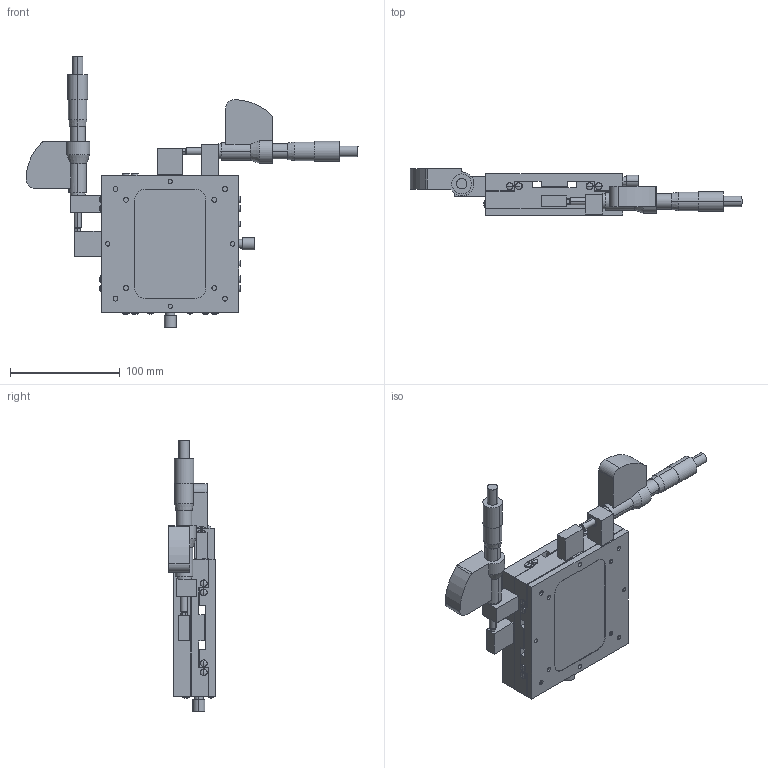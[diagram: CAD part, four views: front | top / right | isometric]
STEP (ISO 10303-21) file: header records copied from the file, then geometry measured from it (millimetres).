
FILE_DESCRIPTION (( 'STEP AP203' ), '1' );
FILE_NAME ('LD-149-S7.STEP', '2008-01-18T09:17:50', ( '' ), ( '' ), 'SwSTEP 2.0', 'SolidWorks 2007', '' );
FILE_SCHEMA (( 'CONFIG_CONTROL_DESIGN' ));
Length unit declared in the file: millimetre
Products named in the file (4): LD-149-S7; LD-149-S7-1_蹬怮椔; LD-149-S7-3_蹬怮椔; LD-149-S7-2_蹬怮椔
Assembly tree (3 placements, depth 2):
  LD-149-S7
    LD-149-S7-3_蹬怮椔
    LD-149-S7-1_蹬怮椔
    LD-149-S7-2_蹬怮椔
Bounding box: 303.21 x 42.5 x 248.3 mm (x, y, z)
Volume: 682750.3 mm3; surface area: 180573.8 mm2
Topology: 5 solids, 5 shells, 459 faces, 1090 edges, 714 vertices
Faces by surface type: cylinder 194, plane 177, cone 48, sphere 36, bspline 4
Entity records: 14780 total; most frequent: CARTESIAN_POINT 3099, DIRECTION 2526, ORIENTED_EDGE 2180, EDGE_CURVE 1090, AXIS2_PLACEMENT_3D 985, VERTEX_POINT 714, EDGE_LOOP 606, VECTOR 556
